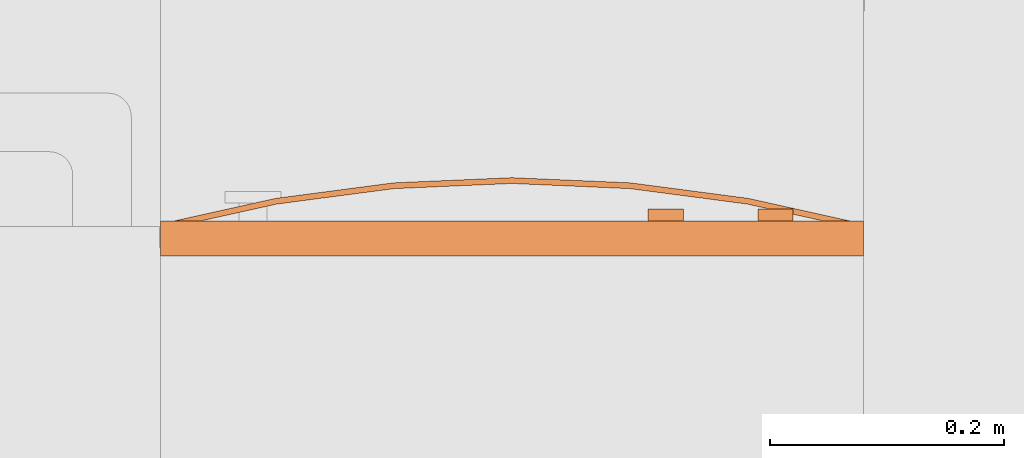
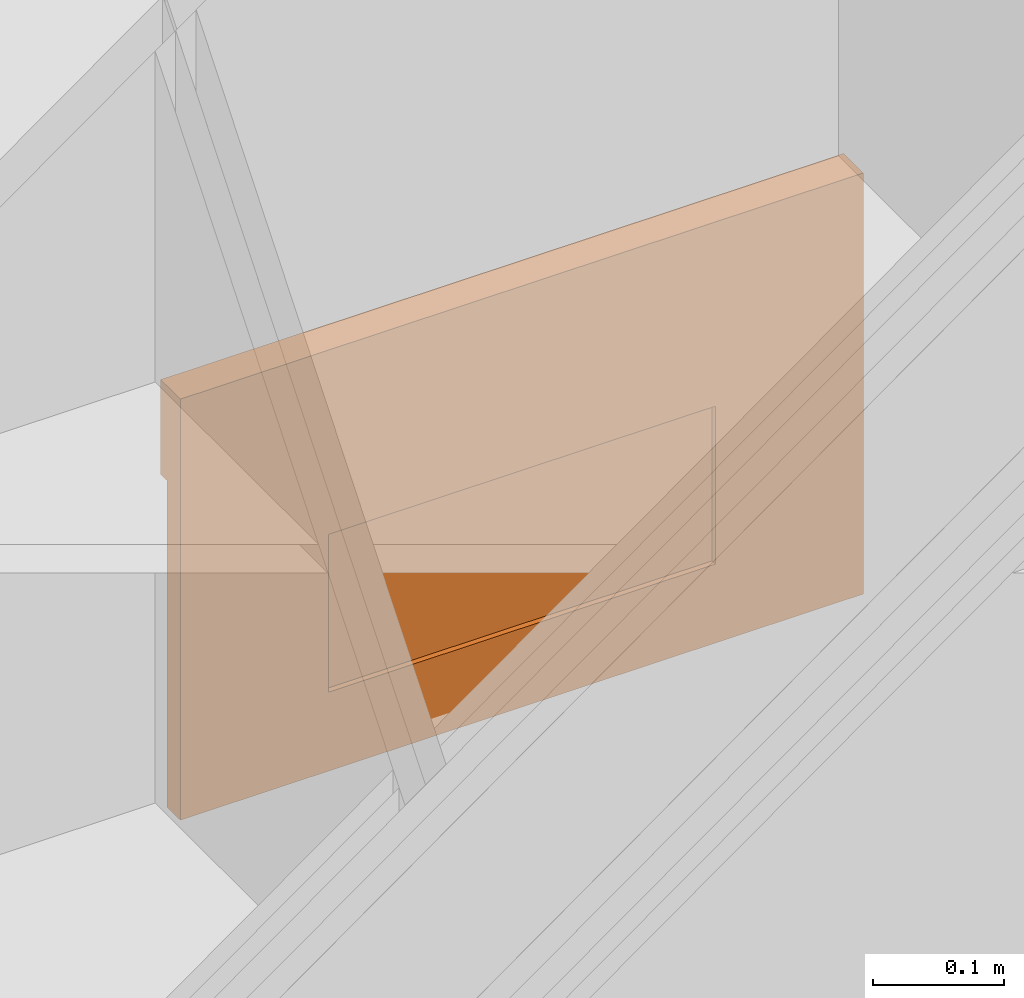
# One storey, part 138 of 165: 1 proxy.
"""IFC2X3 building model written with IfcOpenShell, lengths in millimetres."""

from ifc_helpers import new_model, entity, si_unit, converted_unit, derived_unit, money_unit, direction, frame, origin_with_axes, place, context, subcontext, project, spatial, faceted_brep, source, transform, mapped, type_object, type_shapes, element, save


model = new_model("IFC2X3")

# Units and contexts
model_context = context("Model", 3, precision=0.01, world=origin_with_axes(), true_north=direction((0.0, 1.0)))
body_context = subcontext(model_context, "Body", "Model", "MODEL_VIEW")
ifc_project = project(units=[si_unit("LENGTHUNIT", "METRE", prefix="MILLI"), si_unit("AREAUNIT", "SQUARE_METRE"), si_unit("VOLUMEUNIT", "CUBIC_METRE"), converted_unit("PLANEANGLEUNIT", "DEGREE", entity("IfcPlaneAngleMeasure", 0.0174532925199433), si_unit("PLANEANGLEUNIT", "RADIAN"), dimensions=[0, 0, 0, 0, 0, 0, 0]), money_unit("EUR"), converted_unit("TIMEUNIT", "Year", entity("IfcTimeMeasure", 31556926.0), si_unit("TIMEUNIT", "SECOND"), dimensions=[0, 0, 1, 0, 0, 0, 0]), si_unit("MASSUNIT", "GRAM", prefix="KILO"), si_unit("THERMODYNAMICTEMPERATUREUNIT", "DEGREE_CELSIUS"), si_unit("LUMINOUSINTENSITYUNIT", "LUMEN"), si_unit("ENERGYUNIT", "JOULE", prefix="MEGA"), derived_unit("THERMALCONDUCTANCEUNIT", [(si_unit("POWERUNIT", "WATT"), 1), (si_unit("LENGTHUNIT", "METRE"), -1), (si_unit("THERMODYNAMICTEMPERATUREUNIT", "KELVIN"), -1)]), derived_unit("SPECIFICHEATCAPACITYUNIT", [(si_unit("ENERGYUNIT", "JOULE"), 1), (si_unit("MASSUNIT", "GRAM", prefix="KILO"), -1), (si_unit("THERMODYNAMICTEMPERATUREUNIT", "KELVIN"), -1)]), derived_unit("MASSDENSITYUNIT", [(si_unit("MASSUNIT", "GRAM", prefix="KILO"), 1), (si_unit("VOLUMEUNIT", "CUBIC_METRE"), -1)])], contexts=[model_context])

# Site, building, storey
site_placement = place(None, origin_with_axes())
site = spatial("IfcSite", under=ifc_project, at=site_placement, Name="Site", CompositionType="ELEMENT")
building_placement = place(site_placement, origin_with_axes())
building = spatial("IfcBuilding", under=site, at=building_placement, Name="Naam gebouw", CompositionType="ELEMENT")
storey_placement = place(building_placement, origin_with_axes())
storey = spatial("IfcBuildingStorey", under=building, at=storey_placement, Name="Begane grond", CompositionType="ELEMENT", Elevation=0.0)

# Proxy
building_element_proxy_type = type_object("IfcBuildingElementProxyType", Name="Oven inbouw 26", PredefinedType="NOTDEFINED")
shared_shape = source(origin_with_axes(), body_context, "Body", "Brep", [
    faceted_brep([(0.0, 20.0, 0.0), (0.0, 0.0, 0.0), (-600.0, 0.0, 0.0), (-600.0, 20.0, 0.0), (0.0, 20.00000000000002, 390.9999983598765), (0.0, 0.0, 390.9999983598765), (-600.0, 0.0, 390.9999983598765), (-130.0, 0.0, 73.31249969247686), (-470.0, 0.0, 73.31249969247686), (-470.0, 0.0, 219.9374990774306), (-130.0, 0.0, 219.9374990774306), (-600.0, 20.00000000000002, 390.9999983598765), (-130.0, 20.0, 73.31249969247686), (-130.0, 20.00000000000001, 219.9374990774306), (-470.0, 20.00000000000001, 219.9374990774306), (-470.0, 20.0, 73.31249969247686)], [[[0, 1, 2, 3]], [[4, 5, 1, 0]], [[1, 5, 6, 2], [7, 8, 9, 10]], [[3, 2, 6, 11]], [[0, 3, 11, 4], [12, 13, 14, 15]], [[11, 6, 5, 4]], [[15, 8, 7, 12]], [[14, 9, 8, 15]], [[13, 10, 9, 14]], [[12, 7, 10, 13]]]),
    faceted_brep([(-130.0, 15.00000000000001, 73.31249969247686), (-130.0, 5.000000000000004, 73.31249969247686), (-470.0, 5.000000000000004, 73.31249969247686), (-470.0, 15.00000000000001, 73.31249969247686), (-130.0, 15.00000000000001, 219.9374990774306), (-130.0, 5.000000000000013, 219.9374990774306), (-470.0, 5.000000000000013, 219.9374990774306), (-470.0, 15.00000000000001, 219.9374990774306)], [[[0, 1, 2, 3]], [[4, 5, 1, 0]], [[1, 5, 6, 2]], [[3, 2, 6, 7]], [[0, 3, 7, 4]], [[7, 6, 5, 4]]]),
    faceted_brep([(-10.0, 0.0, 10.0), (-10.0, -10.0, 10.0), (-590.0, -10.0, 10.0), (-590.0, 0.0, 10.0), (-10.0, 0.0, 288.2499987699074), (-10.0, -9.999999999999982, 288.2499987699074), (-590.0, -9.999999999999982, 288.2499987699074), (-75.0, -9.999999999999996, 63.31249969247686), (-525.0, -9.999999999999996, 63.31249969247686), (-525.0, -9.999999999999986, 229.9374990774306), (-75.0, -9.999999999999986, 229.9374990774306), (-590.0, 0.0, 288.2499987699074), (-75.0, 0.0, 63.31249969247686), (-75.0, 0.0, 229.9374990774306), (-525.0, 0.0, 229.9374990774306), (-525.0, 0.0, 63.31249969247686)], [[[0, 1, 2, 3]], [[4, 5, 1, 0]], [[1, 5, 6, 2], [7, 8, 9, 10]], [[3, 2, 6, 11]], [[0, 3, 11, 4], [12, 13, 14, 15]], [[11, 6, 5, 4]], [[15, 8, 7, 12]], [[14, 9, 8, 15]], [[13, 10, 9, 14]], [[12, 7, 10, 13]]]),
    faceted_brep([(0.0, 0.0, 303.2499987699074), (0.0, -10.0, 303.2499987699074), (-600.0, -10.0, 303.2499987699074), (-600.0, 0.0, 303.2499987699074), (0.0, 0.0, 390.9999983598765), (0.0, -9.999999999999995, 390.9999983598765), (-600.0, -9.999999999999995, 390.9999983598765), (-75.0, -9.999999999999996, 358.4166651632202), (-75.0, -9.999999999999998, 325.8333319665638), (-150.0, -9.999999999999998, 325.8333319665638), (-150.0, -9.999999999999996, 358.4166651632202), (-600.0, 0.0, 390.9999983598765), (-75.0, 0.0, 358.4166651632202), (-150.0, 0.0, 358.4166651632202), (-150.0, 0.0, 325.8333319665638), (-75.0, 0.0, 325.8333319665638)], [[[0, 1, 2, 3]], [[4, 5, 1, 0]], [[1, 5, 6, 2], [7, 8, 9, 10]], [[3, 2, 6, 11]], [[0, 3, 11, 4], [12, 13, 14, 15]], [[11, 6, 5, 4]], [[15, 8, 7, 12]], [[14, 9, 8, 15]], [[13, 10, 9, 14]], [[12, 7, 10, 13]]]),
    faceted_brep([(-11.9091801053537, -10.0, 255.666665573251), (-11.9091801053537, -10.0, 288.2499987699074), (-98.56811390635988, -29.21182309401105, 288.2499987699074), (-98.56811390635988, -29.21182309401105, 255.666665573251), (-34.98832452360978, -10.0, 255.666665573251), (-34.98832452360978, -10.0, 288.2499987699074), (-99.43635479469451, -24.28778432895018, 288.2499987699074), (-199.3351171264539, -37.43970589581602, 288.2499987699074), (-300.0, -41.83482959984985, 288.2499987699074), (-400.6648828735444, -37.43970589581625, 288.2499987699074), (-500.5636452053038, -24.2877843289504, 288.2499987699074), (-565.0116754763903, -10.0, 288.2499987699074), (-588.0908198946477, -10.0, 288.2499987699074), (-501.4318860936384, -29.21182309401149, 288.2499987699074), (-401.1006615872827, -42.42067938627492, 288.2499987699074), (-300.0, -46.83482959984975, 288.2499987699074), (-198.8993384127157, -42.42067938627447, 288.2499987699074), (-198.8993384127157, -42.42067938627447, 255.666665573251), (-588.0908198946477, -10.0, 255.666665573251), (-565.0116754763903, -9.999999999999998, 255.666665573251), (-500.5636452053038, -24.2877843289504, 255.666665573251), (-400.6648828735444, -37.43970589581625, 255.666665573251), (-300.0, -41.83482959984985, 255.666665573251), (-199.3351171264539, -37.43970589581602, 255.666665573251), (-99.43635479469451, -24.28778432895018, 255.666665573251), (-300.0, -46.83482959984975, 255.666665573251), (-401.1006615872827, -42.42067938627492, 255.666665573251), (-501.4318860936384, -29.21182309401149, 255.666665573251)], [[[0, 1, 2, 3]], [[0, 4, 5, 1]], [[1, 5, 6, 7, 8, 9, 10, 11, 12, 13, 14, 15, 16, 2]], [[3, 2, 16, 17]], [[18, 19, 20, 21, 22, 23, 24, 4, 0, 3, 17, 25, 26, 27]], [[24, 6, 5, 4]], [[23, 7, 6, 24]], [[22, 8, 7, 23]], [[21, 9, 8, 22]], [[20, 10, 9, 21]], [[19, 11, 10, 20]], [[18, 12, 11, 19]], [[27, 13, 12, 18]], [[26, 14, 13, 27]], [[25, 15, 14, 26]], [[17, 16, 15, 25]]]),
    faceted_brep([(-539.9429204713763, -10.0, 340.8176624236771), (-540.0, -10.0, 342.124998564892), (-539.9429204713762, -10.0, 343.4323347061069), (-539.7721162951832, -10.0, 344.7297212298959), (-539.4888873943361, -10.0, 346.0072842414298), (-539.0953893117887, -10.0, 347.255300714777), (-538.5946168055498, -10.0, 348.4642724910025), (-537.9903810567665, -10.0, 349.624998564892), (-537.287280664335, -10.0, 350.7286451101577), (-536.4906666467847, -10.0, 351.76681271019), (-535.6066017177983, -10.0, 352.7316002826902), (-534.6418141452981, -10.0, 353.6156652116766), (-533.6036465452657, -10.0, 354.4122792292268), (-532.5, -10.0, 355.1153796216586), (-531.3392739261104, -10.0, 355.7196153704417), (-530.1303021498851, -10.0, 356.2203878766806), (-528.8822856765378, -9.999999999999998, 356.613885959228), (-527.604722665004, -9.999999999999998, 356.8971148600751), (-526.3073361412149, -9.999999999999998, 357.0679190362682), (-525.0, -9.999999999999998, 357.124998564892), (-523.6926638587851, -9.999999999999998, 357.0679190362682), (-522.395277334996, -9.999999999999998, 356.8971148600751), (-521.1177143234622, -9.999999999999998, 356.613885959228), (-519.8696978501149, -10.0, 356.2203878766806), (-518.6607260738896, -10.0, 355.7196153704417), (-517.5000000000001, -10.0, 355.1153796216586), (-516.3963534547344, -10.0, 354.4122792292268), (-515.3581858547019, -10.0, 353.6156652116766), (-514.3933982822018, -10.0, 352.7316002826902), (-513.5093333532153, -10.0, 351.76681271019), (-512.712719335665, -10.0, 350.7286451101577), (-512.0096189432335, -10.0, 349.624998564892), (-511.4053831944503, -10.0, 348.4642724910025), (-510.9046106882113, -10.0, 347.255300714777), (-510.5111126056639, -10.0, 346.0072842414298), (-510.2278837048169, -10.0, 344.7297212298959), (-510.0570795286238, -10.0, 343.4323347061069), (-510.0, -10.0, 342.124998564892), (-510.0570795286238, -10.0, 340.8176624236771), (-510.2278837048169, -10.0, 339.520275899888), (-510.5111126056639, -10.0, 338.2427128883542), (-510.9046106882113, -10.0, 336.994696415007), (-511.4053831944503, -10.0, 335.7857246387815), (-512.0096189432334, -10.0, 334.624998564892), (-512.712719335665, -10.0, 333.5213520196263), (-513.5093333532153, -10.0, 332.4831844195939), (-514.3933982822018, -10.0, 331.5183968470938), (-515.3581858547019, -10.0, 330.6343319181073), (-516.3963534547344, -10.0, 329.8377179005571), (-517.5, -10.0, 329.1346175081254), (-518.6607260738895, -10.0, 328.5303817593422), (-519.8696978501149, -10.0, 328.0296092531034), (-521.1177143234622, -10.0, 327.636111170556), (-522.395277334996, -10.0, 327.3528822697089), (-523.6926638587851, -10.0, 327.1820780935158), (-525.0, -10.0, 327.1249985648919), (-526.3073361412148, -10.0, 327.1820780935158), (-527.604722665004, -10.0, 327.3528822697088), (-528.8822856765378, -10.0, 327.636111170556), (-530.1303021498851, -10.0, 328.0296092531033), (-531.3392739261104, -10.0, 328.5303817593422), (-532.5, -10.0, 329.1346175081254), (-533.6036465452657, -10.0, 329.8377179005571), (-534.6418141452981, -10.0, 330.6343319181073), (-535.6066017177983, -10.0, 331.5183968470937), (-536.4906666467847, -10.0, 332.4831844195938), (-537.287280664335, -10.0, 333.5213520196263), (-537.9903810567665, -10.0, 334.624998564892), (-538.5946168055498, -10.0, 335.7857246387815), (-539.0953893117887, -10.0, 336.994696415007), (-539.4888873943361, -10.0, 338.2427128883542), (-539.7721162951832, -10.0, 339.520275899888), (-539.9429204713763, -20.0, 340.8176624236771), (-540.0, -20.0, 342.124998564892), (-539.9429204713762, -20.0, 343.4323347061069), (-539.7721162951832, -20.0, 344.7297212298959), (-539.4888873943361, -20.0, 346.0072842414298), (-539.0953893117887, -20.0, 347.255300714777), (-538.5946168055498, -20.0, 348.4642724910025), (-537.9903810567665, -20.0, 349.624998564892), (-537.287280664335, -20.0, 350.7286451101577), (-536.4906666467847, -20.0, 351.76681271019), (-535.6066017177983, -20.0, 352.7316002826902), (-534.6418141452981, -20.0, 353.6156652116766), (-533.6036465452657, -20.0, 354.4122792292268), (-532.5, -20.0, 355.1153796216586), (-531.3392739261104, -20.0, 355.7196153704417), (-530.1303021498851, -20.0, 356.2203878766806), (-528.8822856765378, -20.0, 356.613885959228), (-527.604722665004, -20.0, 356.8971148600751), (-526.3073361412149, -20.0, 357.0679190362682), (-525.0, -20.0, 357.124998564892), (-523.6926638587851, -20.0, 357.0679190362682), (-522.395277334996, -20.0, 356.8971148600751), (-521.1177143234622, -20.0, 356.613885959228), (-519.8696978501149, -20.0, 356.2203878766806), (-518.6607260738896, -20.0, 355.7196153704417), (-517.5000000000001, -20.0, 355.1153796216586), (-516.3963534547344, -20.0, 354.4122792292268), (-515.3581858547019, -20.0, 353.6156652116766), (-514.3933982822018, -20.0, 352.7316002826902), (-513.5093333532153, -20.0, 351.76681271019), (-512.712719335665, -20.0, 350.7286451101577), (-512.0096189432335, -20.0, 349.624998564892), (-511.4053831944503, -20.0, 348.4642724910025), (-510.9046106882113, -20.0, 347.255300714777), (-510.5111126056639, -20.0, 346.0072842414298), (-510.2278837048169, -20.0, 344.7297212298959), (-510.0570795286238, -20.0, 343.4323347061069), (-510.0, -20.0, 342.124998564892), (-510.0570795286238, -20.0, 340.8176624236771), (-510.2278837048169, -20.0, 339.520275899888), (-510.5111126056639, -20.0, 338.2427128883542), (-510.9046106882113, -20.0, 336.994696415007), (-511.4053831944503, -20.0, 335.7857246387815), (-512.0096189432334, -20.0, 334.624998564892), (-512.712719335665, -20.0, 333.5213520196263), (-513.5093333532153, -20.0, 332.4831844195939), (-514.3933982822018, -20.0, 331.5183968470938), (-515.3581858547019, -20.0, 330.6343319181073), (-516.3963534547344, -20.0, 329.8377179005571), (-517.5, -20.0, 329.1346175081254), (-518.6607260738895, -20.0, 328.5303817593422), (-519.8696978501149, -20.0, 328.0296092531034), (-521.1177143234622, -20.0, 327.636111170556), (-522.395277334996, -20.0, 327.3528822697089), (-523.6926638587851, -20.0, 327.1820780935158), (-525.0, -20.0, 327.1249985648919), (-526.3073361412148, -20.0, 327.1820780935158), (-527.604722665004, -20.0, 327.3528822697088), (-528.8822856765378, -20.0, 327.636111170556), (-530.1303021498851, -20.0, 328.0296092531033), (-531.3392739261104, -20.0, 328.5303817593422), (-532.5, -20.0, 329.1346175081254), (-533.6036465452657, -20.0, 329.8377179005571), (-534.6418141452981, -20.0, 330.6343319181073), (-535.6066017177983, -20.0, 331.5183968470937), (-536.4906666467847, -20.0, 332.4831844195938), (-537.287280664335, -20.0, 333.5213520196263), (-537.9903810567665, -20.0, 334.624998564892), (-538.5946168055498, -20.0, 335.7857246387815), (-539.0953893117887, -20.0, 336.994696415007), (-539.4888873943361, -20.0, 338.2427128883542), (-539.7721162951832, -20.0, 339.520275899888)], [[[0, 1, 2, 3, 4, 5, 6, 7, 8, 9, 10, 11, 12, 13, 14, 15, 16, 17, 18, 19, 20, 21, 22, 23, 24, 25, 26, 27, 28, 29, 30, 31, 32, 33, 34, 35, 36, 37, 38, 39, 40, 41, 42, 43, 44, 45, 46, 47, 48, 49, 50, 51, 52, 53, 54, 55, 56, 57, 58, 59, 60, 61, 62, 63, 64, 65, 66, 67, 68, 69, 70, 71]], [[0, 72, 73, 1]], [[1, 73, 74, 2]], [[2, 74, 75, 3]], [[3, 75, 76, 4]], [[4, 76, 77, 5]], [[5, 77, 78, 6]], [[6, 78, 79, 7]], [[7, 79, 80, 8]], [[8, 80, 81, 9]], [[9, 81, 82, 10]], [[10, 82, 83, 11]], [[11, 83, 84, 12]], [[12, 84, 85, 13]], [[13, 85, 86, 14]], [[14, 86, 87, 15]], [[15, 87, 88, 16]], [[16, 88, 89, 17]], [[17, 89, 90, 18]], [[18, 90, 91, 19]], [[19, 91, 92, 20]], [[20, 92, 93, 21]], [[21, 93, 94, 22]], [[22, 94, 95, 23]], [[23, 95, 96, 24]], [[24, 96, 97, 25]], [[25, 97, 98, 26]], [[26, 98, 99, 27]], [[27, 99, 100, 28]], [[28, 100, 101, 29]], [[29, 101, 102, 30]], [[30, 102, 103, 31]], [[31, 103, 104, 32]], [[32, 104, 105, 33]], [[33, 105, 106, 34]], [[34, 106, 107, 35]], [[35, 107, 108, 36]], [[36, 108, 109, 37]], [[37, 109, 110, 38]], [[38, 110, 111, 39]], [[39, 111, 112, 40]], [[40, 112, 113, 41]], [[41, 113, 114, 42]], [[42, 114, 115, 43]], [[43, 115, 116, 44]], [[44, 116, 117, 45]], [[45, 117, 118, 46]], [[46, 118, 119, 47]], [[47, 119, 120, 48]], [[48, 120, 121, 49]], [[49, 121, 122, 50]], [[50, 122, 123, 51]], [[51, 123, 124, 52]], [[52, 124, 125, 53]], [[53, 125, 126, 54]], [[54, 126, 127, 55]], [[55, 127, 128, 56]], [[56, 128, 129, 57]], [[57, 129, 130, 58]], [[58, 130, 131, 59]], [[59, 131, 132, 60]], [[60, 132, 133, 61]], [[61, 133, 134, 62]], [[62, 134, 135, 63]], [[63, 135, 136, 64]], [[64, 136, 137, 65]], [[65, 137, 138, 66]], [[66, 138, 139, 67]], [[67, 139, 140, 68]], [[68, 140, 141, 69]], [[69, 141, 142, 70]], [[70, 142, 143, 71]], [[71, 143, 72, 0]], [[72, 143, 142, 141, 140, 139, 138, 137, 136, 135, 134, 133, 132, 131, 130, 129, 128, 127, 126, 125, 124, 123, 122, 121, 120, 119, 118, 117, 116, 115, 114, 113, 112, 111, 110, 109, 108, 107, 106, 105, 104, 103, 102, 101, 100, 99, 98, 97, 96, 95, 94, 93, 92, 91, 90, 89, 88, 87, 86, 85, 84, 83, 82, 81, 80, 79, 78, 77, 76, 75, 74, 73]]]),
    faceted_brep([(-446.1929204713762, -10.0, 340.8176624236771), (-446.2500000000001, -10.0, 342.124998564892), (-446.1929204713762, -10.0, 343.4323347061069), (-446.0221162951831, -10.0, 344.7297212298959), (-445.738887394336, -10.0, 346.0072842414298), (-445.3453893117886, -10.0, 347.255300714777), (-444.8446168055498, -10.0, 348.4642724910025), (-444.2403810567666, -10.0, 349.624998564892), (-443.5372806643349, -10.0, 350.7286451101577), (-442.7406666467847, -10.0, 351.76681271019), (-441.8566017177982, -10.0, 352.7316002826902), (-440.8918141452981, -10.0, 353.6156652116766), (-439.8536465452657, -10.0, 354.4122792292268), (-438.7500000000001, -10.0, 355.1153796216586), (-437.5892739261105, -10.0, 355.7196153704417), (-436.380302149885, -10.0, 356.2203878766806), (-435.1322856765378, -9.999999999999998, 356.613885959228), (-433.854722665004, -9.999999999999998, 356.8971148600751), (-432.5573361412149, -9.999999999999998, 357.0679190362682), (-431.25, -9.999999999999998, 357.124998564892), (-429.9426638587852, -9.999999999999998, 357.0679190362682), (-428.6452773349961, -9.999999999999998, 356.8971148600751), (-427.3677143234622, -9.999999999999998, 356.613885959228), (-426.119697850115, -10.0, 356.2203878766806), (-424.9107260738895, -10.0, 355.7196153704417), (-423.75, -10.0, 355.1153796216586), (-422.6463534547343, -10.0, 354.4122792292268), (-421.608185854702, -10.0, 353.6156652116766), (-420.6433982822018, -10.0, 352.7316002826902), (-419.7593333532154, -10.0, 351.76681271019), (-418.9627193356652, -10.0, 350.7286451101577), (-418.2596189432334, -10.0, 349.624998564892), (-417.6553831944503, -10.0, 348.4642724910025), (-417.1546106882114, -10.0, 347.255300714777), (-416.761112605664, -10.0, 346.0072842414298), (-416.4778837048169, -10.0, 344.7297212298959), (-416.3070795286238, -10.0, 343.4323347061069), (-416.25, -10.0, 342.124998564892), (-416.3070795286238, -10.0, 340.8176624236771), (-416.4778837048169, -10.0, 339.520275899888), (-416.761112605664, -10.0, 338.2427128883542), (-417.1546106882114, -10.0, 336.994696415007), (-417.6553831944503, -10.0, 335.7857246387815), (-418.2596189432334, -10.0, 334.624998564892), (-418.9627193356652, -10.0, 333.5213520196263), (-419.7593333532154, -10.0, 332.4831844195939), (-420.6433982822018, -10.0, 331.5183968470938), (-421.608185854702, -10.0, 330.6343319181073), (-422.6463534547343, -10.0, 329.8377179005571), (-423.75, -10.0, 329.1346175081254), (-424.9107260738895, -10.0, 328.5303817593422), (-426.119697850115, -10.0, 328.0296092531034), (-427.3677143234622, -10.0, 327.636111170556), (-428.6452773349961, -10.0, 327.3528822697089), (-429.9426638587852, -10.0, 327.1820780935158), (-431.25, -10.0, 327.1249985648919), (-432.5573361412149, -10.0, 327.1820780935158), (-433.854722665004, -10.0, 327.3528822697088), (-435.1322856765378, -10.0, 327.636111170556), (-436.380302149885, -10.0, 328.0296092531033), (-437.5892739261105, -10.0, 328.5303817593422), (-438.7500000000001, -10.0, 329.1346175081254), (-439.8536465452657, -10.0, 329.8377179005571), (-440.8918141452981, -10.0, 330.6343319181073), (-441.8566017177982, -10.0, 331.5183968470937), (-442.7406666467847, -10.0, 332.4831844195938), (-443.5372806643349, -10.0, 333.5213520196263), (-444.2403810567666, -10.0, 334.624998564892), (-444.8446168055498, -10.0, 335.7857246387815), (-445.3453893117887, -10.0, 336.994696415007), (-445.738887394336, -10.0, 338.2427128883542), (-446.0221162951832, -10.0, 339.520275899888), (-446.1929204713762, -20.0, 340.8176624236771), (-446.2500000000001, -20.0, 342.124998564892), (-446.1929204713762, -20.0, 343.4323347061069), (-446.0221162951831, -20.0, 344.7297212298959), (-445.738887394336, -20.0, 346.0072842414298), (-445.3453893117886, -20.0, 347.255300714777), (-444.8446168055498, -20.0, 348.4642724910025), (-444.2403810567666, -20.0, 349.624998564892), (-443.5372806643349, -20.0, 350.7286451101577), (-442.7406666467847, -20.0, 351.76681271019), (-441.8566017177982, -20.0, 352.7316002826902), (-440.8918141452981, -20.0, 353.6156652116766), (-439.8536465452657, -20.0, 354.4122792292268), (-438.7500000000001, -20.0, 355.1153796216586), (-437.5892739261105, -20.0, 355.7196153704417), (-436.380302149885, -20.0, 356.2203878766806), (-435.1322856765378, -20.0, 356.613885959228), (-433.854722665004, -20.0, 356.8971148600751), (-432.5573361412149, -20.0, 357.0679190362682), (-431.25, -20.0, 357.124998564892), (-429.9426638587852, -20.0, 357.0679190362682), (-428.6452773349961, -20.0, 356.8971148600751), (-427.3677143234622, -20.0, 356.613885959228), (-426.119697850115, -20.0, 356.2203878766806), (-424.9107260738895, -20.0, 355.7196153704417), (-423.75, -20.0, 355.1153796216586), (-422.6463534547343, -20.0, 354.4122792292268), (-421.608185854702, -20.0, 353.6156652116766), (-420.6433982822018, -20.0, 352.7316002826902), (-419.7593333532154, -20.0, 351.76681271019), (-418.9627193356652, -20.0, 350.7286451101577), (-418.2596189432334, -20.0, 349.624998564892), (-417.6553831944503, -20.0, 348.4642724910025), (-417.1546106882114, -20.0, 347.255300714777), (-416.761112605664, -20.0, 346.0072842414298), (-416.4778837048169, -20.0, 344.7297212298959), (-416.3070795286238, -20.0, 343.4323347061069), (-416.25, -20.0, 342.124998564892), (-416.3070795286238, -20.0, 340.8176624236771), (-416.4778837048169, -20.0, 339.520275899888), (-416.761112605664, -20.0, 338.2427128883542), (-417.1546106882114, -20.0, 336.994696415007), (-417.6553831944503, -20.0, 335.7857246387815), (-418.2596189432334, -20.0, 334.624998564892), (-418.9627193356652, -20.0, 333.5213520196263), (-419.7593333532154, -20.0, 332.4831844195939), (-420.6433982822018, -20.0, 331.5183968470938), (-421.608185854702, -20.0, 330.6343319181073), (-422.6463534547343, -20.0, 329.8377179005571), (-423.75, -20.0, 329.1346175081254), (-424.9107260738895, -20.0, 328.5303817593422), (-426.119697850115, -20.0, 328.0296092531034), (-427.3677143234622, -20.0, 327.636111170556), (-428.6452773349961, -20.0, 327.3528822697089), (-429.9426638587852, -20.0, 327.1820780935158), (-431.25, -20.0, 327.1249985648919), (-432.5573361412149, -20.0, 327.1820780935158), (-433.854722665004, -20.0, 327.3528822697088), (-435.1322856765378, -20.0, 327.636111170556), (-436.380302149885, -20.0, 328.0296092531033), (-437.5892739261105, -20.0, 328.5303817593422), (-438.7500000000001, -20.0, 329.1346175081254), (-439.8536465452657, -20.0, 329.8377179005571), (-440.8918141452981, -20.0, 330.6343319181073), (-441.8566017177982, -20.0, 331.5183968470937), (-442.7406666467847, -20.0, 332.4831844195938), (-443.5372806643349, -20.0, 333.5213520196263), (-444.2403810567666, -20.0, 334.624998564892), (-444.8446168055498, -20.0, 335.7857246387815), (-445.3453893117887, -20.0, 336.994696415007), (-445.738887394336, -20.0, 338.2427128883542), (-446.0221162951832, -20.0, 339.520275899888)], [[[0, 1, 2, 3, 4, 5, 6, 7, 8, 9, 10, 11, 12, 13, 14, 15, 16, 17, 18, 19, 20, 21, 22, 23, 24, 25, 26, 27, 28, 29, 30, 31, 32, 33, 34, 35, 36, 37, 38, 39, 40, 41, 42, 43, 44, 45, 46, 47, 48, 49, 50, 51, 52, 53, 54, 55, 56, 57, 58, 59, 60, 61, 62, 63, 64, 65, 66, 67, 68, 69, 70, 71]], [[0, 72, 73, 1]], [[1, 73, 74, 2]], [[2, 74, 75, 3]], [[3, 75, 76, 4]], [[4, 76, 77, 5]], [[5, 77, 78, 6]], [[6, 78, 79, 7]], [[7, 79, 80, 8]], [[8, 80, 81, 9]], [[9, 81, 82, 10]], [[10, 82, 83, 11]], [[11, 83, 84, 12]], [[12, 84, 85, 13]], [[13, 85, 86, 14]], [[14, 86, 87, 15]], [[15, 87, 88, 16]], [[16, 88, 89, 17]], [[17, 89, 90, 18]], [[18, 90, 91, 19]], [[19, 91, 92, 20]], [[20, 92, 93, 21]], [[21, 93, 94, 22]], [[22, 94, 95, 23]], [[23, 95, 96, 24]], [[24, 96, 97, 25]], [[25, 97, 98, 26]], [[26, 98, 99, 27]], [[27, 99, 100, 28]], [[28, 100, 101, 29]], [[29, 101, 102, 30]], [[30, 102, 103, 31]], [[31, 103, 104, 32]], [[32, 104, 105, 33]], [[33, 105, 106, 34]], [[34, 106, 107, 35]], [[35, 107, 108, 36]], [[36, 108, 109, 37]], [[37, 109, 110, 38]], [[38, 110, 111, 39]], [[39, 111, 112, 40]], [[40, 112, 113, 41]], [[41, 113, 114, 42]], [[42, 114, 115, 43]], [[43, 115, 116, 44]], [[44, 116, 117, 45]], [[45, 117, 118, 46]], [[46, 118, 119, 47]], [[47, 119, 120, 48]], [[48, 120, 121, 49]], [[49, 121, 122, 50]], [[50, 122, 123, 51]], [[51, 123, 124, 52]], [[52, 124, 125, 53]], [[53, 125, 126, 54]], [[54, 126, 127, 55]], [[55, 127, 128, 56]], [[56, 128, 129, 57]], [[57, 129, 130, 58]], [[58, 130, 131, 59]], [[59, 131, 132, 60]], [[60, 132, 133, 61]], [[61, 133, 134, 62]], [[62, 134, 135, 63]], [[63, 135, 136, 64]], [[64, 136, 137, 65]], [[65, 137, 138, 66]], [[66, 138, 139, 67]], [[67, 139, 140, 68]], [[68, 140, 141, 69]], [[69, 141, 142, 70]], [[70, 142, 143, 71]], [[71, 143, 72, 0]], [[72, 143, 142, 141, 140, 139, 138, 137, 136, 135, 134, 133, 132, 131, 130, 129, 128, 127, 126, 125, 124, 123, 122, 121, 120, 119, 118, 117, 116, 115, 114, 113, 112, 111, 110, 109, 108, 107, 106, 105, 104, 103, 102, 101, 100, 99, 98, 97, 96, 95, 94, 93, 92, 91, 90, 89, 88, 87, 86, 85, 84, 83, 82, 81, 80, 79, 78, 77, 76, 75, 74, 73]]]),
])
type_shapes(building_element_proxy_type, [shared_shape])
proxy_placement = place(storey_placement, frame((2031.997599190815, 11825.51573403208, 1800.0), z_axis=(0.0, 0.0, 1.0), x_axis=(-0.9999999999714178, -7.560724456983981e-06, 0.0)))
element("IfcBuildingElementProxy", 1, at=proxy_placement, inside=storey, type_object=building_element_proxy_type, Name="_Leeg", context=body_context, shape_type="MappedRepresentation", body=[
    mapped(shared_shape, transform((0.0, 0.0, 0.0))),
])

save(model, "model.ifc")
